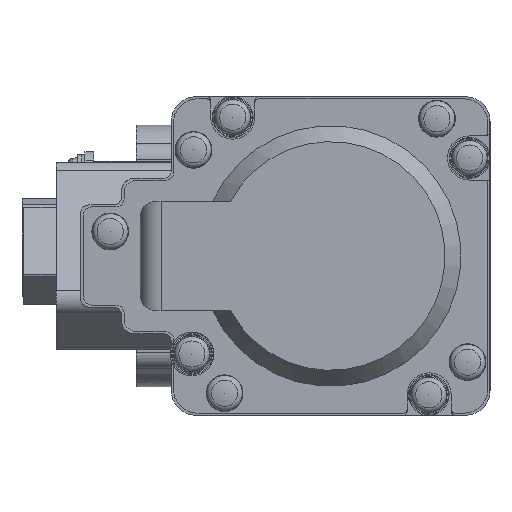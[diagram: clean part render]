
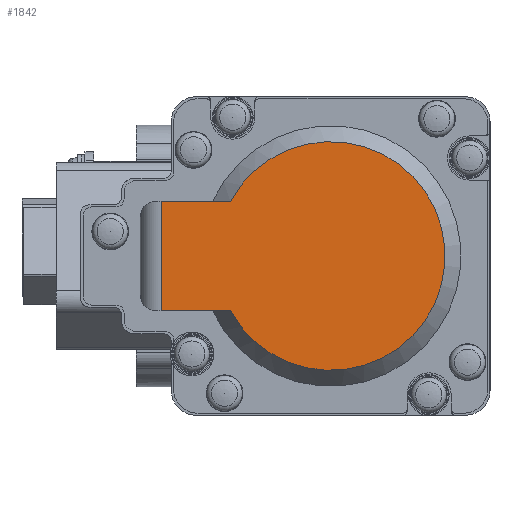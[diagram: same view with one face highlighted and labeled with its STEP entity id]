
A CAD part, left-side view. The second image highlights one B-rep face of the part: STEP entity #1842.
In plain terms, the highlighted planar face has unit normal (-1, 0, 0).
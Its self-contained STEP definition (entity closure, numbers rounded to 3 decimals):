
#1842 = ADVANCED_FACE( '', ( #3916 ), #3917, .F. );
#3916 = FACE_OUTER_BOUND( '', #6434, .T. );
#3917 = PLANE( '', #6435 );
#6434 = EDGE_LOOP( '', ( #11846, #11847, #11848, #11849 ) );
#6435 = AXIS2_PLACEMENT_3D( '', #11850, #11851, #11852 );
#11846 = ORIENTED_EDGE( '', *, *, #13917, .F. );
#11847 = ORIENTED_EDGE( '', *, *, #13679, .F. );
#11848 = ORIENTED_EDGE( '', *, *, #12824, .F. );
#11849 = ORIENTED_EDGE( '', *, *, #13790, .T. );
#11850 = CARTESIAN_POINT( '', ( -105., 20.75, 15. ) );
#11851 = DIRECTION( '', ( 1., 0., 0. ) );
#11852 = DIRECTION( '', ( 0., 0., -1. ) );
#12824 = EDGE_CURVE( '', #15374, #15368, #15376, .T. );
#13679 = EDGE_CURVE( '', #15368, #16738, #16739, .T. );
#13790 = EDGE_CURVE( '', #15374, #16893, #16894, .T. );
#13917 = EDGE_CURVE( '', #16738, #16893, #17063, .T. );
#15368 = VERTEX_POINT( '', #18933 );
#15374 = VERTEX_POINT( '', #18944 );
#15376 = LINE( '', #18946, #18947 );
#16738 = VERTEX_POINT( '', #20819 );
#16739 = CIRCLE( '', #20820, 14. );
#16893 = VERTEX_POINT( '', #21030 );
#16894 = LINE( '', #21031, #21032 );
#17063 = LINE( '', #21283, #21284 );
#18933 = CARTESIAN_POINT( '', ( -105., 12.293, 6.7 ) );
#18944 = CARTESIAN_POINT( '', ( -105., 20.75, 6.7 ) );
#18946 = CARTESIAN_POINT( '', ( -105., 21.35, 6.7 ) );
#18947 = VECTOR( '', #22935, 1000. );
#20819 = CARTESIAN_POINT( '', ( -105., 12.293, -6.7 ) );
#20820 = AXIS2_PLACEMENT_3D( '', #24023, #24024, #24025 );
#21030 = CARTESIAN_POINT( '', ( -105., 20.75, -6.7 ) );
#21031 = CARTESIAN_POINT( '', ( -105., 20.75, 15. ) );
#21032 = VECTOR( '', #24136, 1000. );
#21283 = CARTESIAN_POINT( '', ( -105., 11.065, -6.7 ) );
#21284 = VECTOR( '', #24280, 1000. );
#22935 = DIRECTION( '', ( 0., -1., 0. ) );
#24023 = CARTESIAN_POINT( '', ( -105., 0., 0. ) );
#24024 = DIRECTION( '', ( 1., 0., 0. ) );
#24025 = DIRECTION( '', ( 0., 0., -1. ) );
#24136 = DIRECTION( '', ( 0., 0., -1. ) );
#24280 = DIRECTION( '', ( 0., 1., 0. ) );
